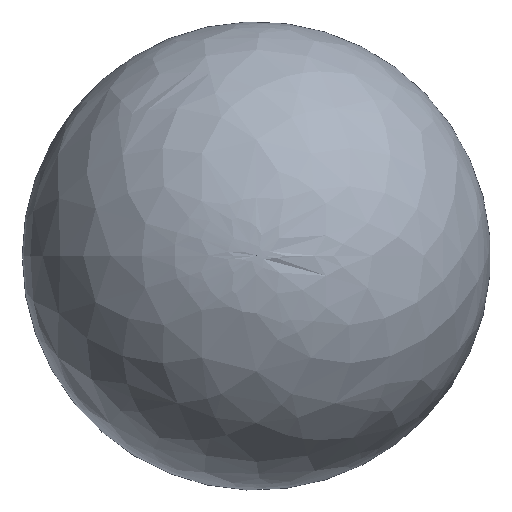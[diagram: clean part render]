
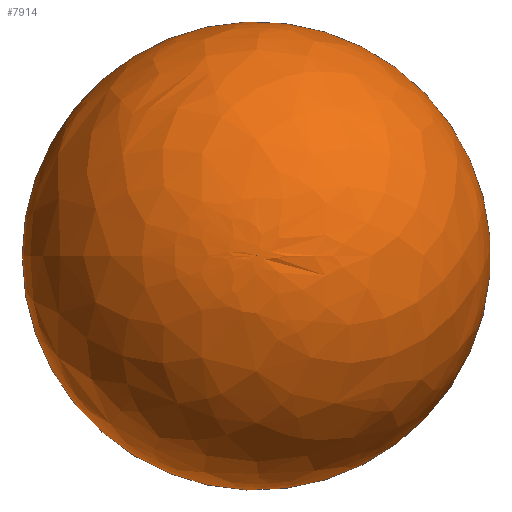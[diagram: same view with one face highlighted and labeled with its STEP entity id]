
A CAD part, top view. The second image highlights one B-rep face of the part: STEP entity #7914.
In plain terms, the highlighted free-form (B-spline) face has degree [3, 3] with [4, 7] control points.
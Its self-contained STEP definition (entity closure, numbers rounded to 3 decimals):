
#2219=VERTEX_LOOP('',#17154);
#2758=(
BOUNDED_SURFACE()
B_SPLINE_SURFACE(3,3,((#33675,#33676,#33677,#33678,#33679,#33680,#33681),
(#33682,#33683,#33684,#33685,#33686,#33687,#33688),(#33689,#33690,#33691,
#33692,#33693,#33694,#33695),(#33696,#33697,#33698,#33699,#33700,#33701,
#33702)),.UNSPECIFIED.,.F.,.T.,.F.)
B_SPLINE_SURFACE_WITH_KNOTS((4,4),(1,3,3,3,1),(0.,1.),(-0.5,0.,0.5,1.,1.5),
 .UNSPECIFIED.)
GEOMETRIC_REPRESENTATION_ITEM()
RATIONAL_B_SPLINE_SURFACE(((1.,0.333,0.333,1.,0.333,
0.333,1.),(0.798,0.266,0.266,
0.798,0.266,0.266,0.798),
(0.798,0.266,0.266,0.798,
0.266,0.266,0.798),(1.,0.333,
0.333,1.,0.333,0.333,1.)))
REPRESENTATION_ITEM('')
SURFACE()
);
#7914=ADVANCED_FACE('',(#9271,#9272),#2758,.T.);
#9271=FACE_BOUND('',#2219,.T.);
#9272=FACE_BOUND('',#9576,.T.);
#9576=EDGE_LOOP('',(#11018));
#11018=ORIENTED_EDGE('',*,*,#19116,.F.);
#17153=VERTEX_POINT('',#33672);
#17154=VERTEX_POINT('',#33674);
#19116=EDGE_CURVE('',#17153,#17153,#23654,.T.);
#23654=CIRCLE('',#24743,242.758);
#24743=AXIS2_PLACEMENT_3D('',#33671,#27101,#27102);
#27101=DIRECTION('',(0.,0.,-1.));
#27102=DIRECTION('',(1.,0.,0.));
#33671=CARTESIAN_POINT('',(0.,0.,41.097));
#33672=CARTESIAN_POINT('',(241.878,-20.658,41.097));
#33674=CARTESIAN_POINT('',(0.,0.,287.581));
#33675=CARTESIAN_POINT('',(-242.758,0.,41.097));
#33676=CARTESIAN_POINT('',(-242.758,485.517,41.097));
#33677=CARTESIAN_POINT('',(242.758,485.517,41.097));
#33678=CARTESIAN_POINT('',(242.758,0.,41.097));
#33679=CARTESIAN_POINT('',(242.758,-485.517,41.097));
#33680=CARTESIAN_POINT('',(-242.758,-485.517,41.097));
#33681=CARTESIAN_POINT('',(-242.758,0.,41.097));
#33682=CARTESIAN_POINT('',(-246.015,0.,185.633));
#33683=CARTESIAN_POINT('',(-246.015,492.03,185.633));
#33684=CARTESIAN_POINT('',(246.015,492.03,185.633));
#33685=CARTESIAN_POINT('',(246.015,0.,185.633));
#33686=CARTESIAN_POINT('',(246.015,-492.03,185.633));
#33687=CARTESIAN_POINT('',(-246.015,-492.03,185.633));
#33688=CARTESIAN_POINT('',(-246.015,0.,185.633));
#33689=CARTESIAN_POINT('',(-144.568,0.,288.636));
#33690=CARTESIAN_POINT('',(-144.568,289.137,288.636));
#33691=CARTESIAN_POINT('',(144.568,289.137,288.636));
#33692=CARTESIAN_POINT('',(144.568,0.,288.636));
#33693=CARTESIAN_POINT('',(144.568,-289.137,288.636));
#33694=CARTESIAN_POINT('',(-144.568,-289.137,288.636));
#33695=CARTESIAN_POINT('',(-144.568,0.,288.636));
#33696=CARTESIAN_POINT('',(0.,0.,287.581));
#33697=CARTESIAN_POINT('',(0.,0.,287.581));
#33698=CARTESIAN_POINT('',(0.,0.,287.581));
#33699=CARTESIAN_POINT('',(0.,0.,287.581));
#33700=CARTESIAN_POINT('',(0.,0.,287.581));
#33701=CARTESIAN_POINT('',(0.,0.,287.581));
#33702=CARTESIAN_POINT('',(0.,0.,287.581));
